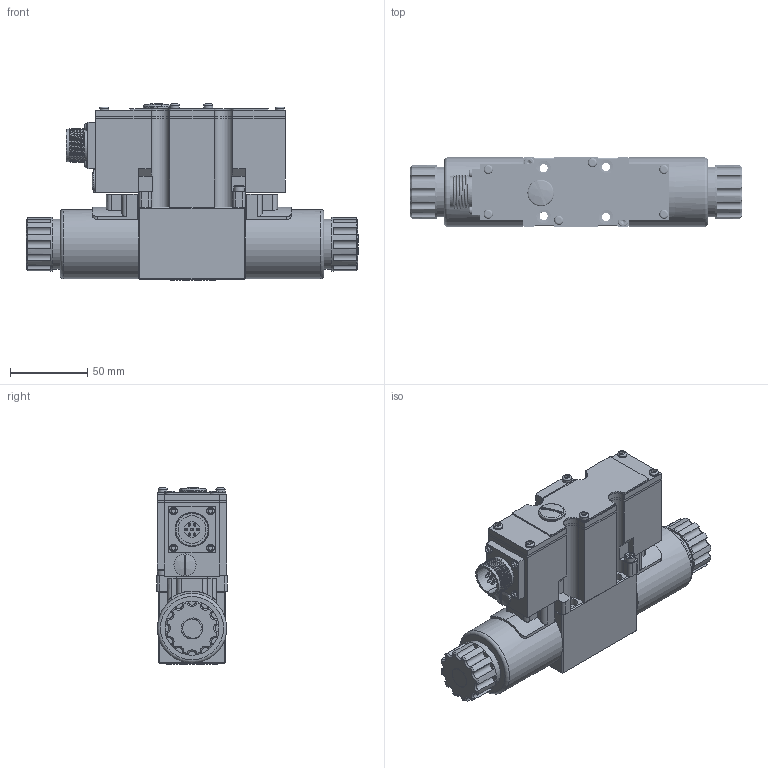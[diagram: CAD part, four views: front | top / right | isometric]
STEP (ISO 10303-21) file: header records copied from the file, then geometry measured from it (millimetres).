
FILE_DESCRIPTION(/* description */ (''),/* implementation_level */ '2;1');
FILE_NAME(/* name */ '4WRAE6-2XJ比例换向阀.prt.stp',/* time_stamp */ '2022-03-30T18:33:09+08:00',/* author */ (''),/* organization */ (''),/* preprocessor_version */ 'ST-DEVELOPER v16.7',/* originating_system */ 'SIEMENS PLM Software NX 12.0',/* authorisation */ '');
FILE_SCHEMA (('AUTOMOTIVE_DESIGN { 1 0 10303 214 3 1 1 1 }'));
Products named in the file (1): 4WRAE6-2XJ比例换向阀
Bounding box: 215.4 x 46 x 114.49 mm (x, y, z)
Volume: 482964.4 mm3; surface area: 150689.3 mm2
Topology: 26 solids, 27 shells, 1001 faces, 2399 edges, 1480 vertices
Faces by surface type: plane 457, cylinder 339, cone 84, bspline 47, torus 47, sphere 23, extrusion 4
Full cylindrical faces by diameter (mm): 1.8 x2, 2 x6, 2.5 x6, 3.2 x59, 3.6 x4, 4 x6, 5.3 x4, 5.5 x2, 6.78 x2, 7 x4, 8.1 x2, 8.7 x2, 9.4 x4, 9.6 x1, 11 x2, 11.026 x3, 12.2 x7, 12.8 x1, 14.3 x2, 14.4 x1, 14.6 x1, 14.701 x3, 17.2 x1, 17.4 x2, 18 x2, 23 x4, 24 x2, 32.5 x2, 35 x2, 45 x2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
Entity records: 77561 total; most frequent: CARTESIAN_POINT 56370, DIRECTION 4189, ORIENTED_EDGE 4026, EDGE_CURVE 2013, AXIS2_PLACEMENT_3D 1647, VERTEX_POINT 1328, EDGE_LOOP 1163, ADVANCED_FACE 941
